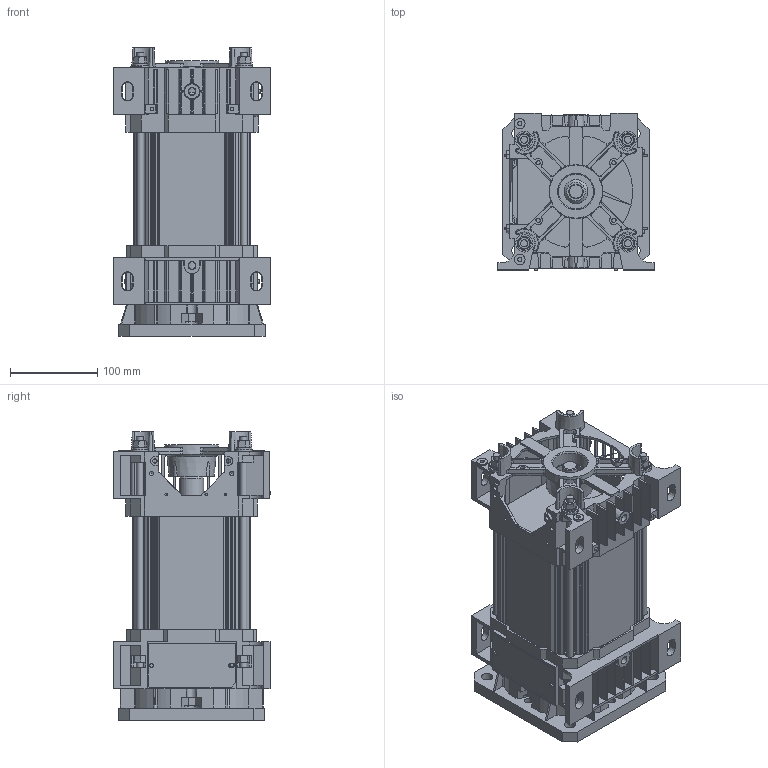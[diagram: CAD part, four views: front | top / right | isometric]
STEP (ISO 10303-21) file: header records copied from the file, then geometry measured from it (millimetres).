
FILE_DESCRIPTION(/* description */ ('Motore Tipo S34 Fl.155 F19-H140 NO Volano NO Piedi'),/* implementation_level */ '2;1');
FILE_NAME(/* name */ 'Y:\ServerTecnico\Mockup Motori x Sito Elmo\Mockup Tipo S34 Size 3 FL155 F19-H140 NO Volano.stp',/* time_stamp */ '2016-10-06T09:36:43+02:00',/* author */ ('aparmini'),/* organization */ (''),/* preprocessor_version */ 'ST-DEVELOPER v16.5',/* originating_system */ 'Autodesk Inventor 2017',/* authorisation */ '');
FILE_SCHEMA (('AUTOMOTIVE_DESIGN { 1 0 10303 214 3 1 1 }'));
Products named in the file (8): Mockup Tipo S34 Size 3 FL155 F19-H140 NO Volano; Mockup CP3XD040N; Mockup CA3ND155Q; Mockup Statore Size 3 - F19-H140; TGS10; TI08ML265; UNI 5587 - M8; DIN 125-2 - B 8,4
Assembly tree (20 placements, depth 2):
  Mockup Tipo S34 Size 3 FL155 F19-H140 NO Volano
    Mockup CP3XD040N
    Mockup CA3ND155Q
    Mockup Statore Size 3 - F19-H140
    TGS10
    UNI 5587 - M8  x8
    TI08ML265  x4
    DIN 125-2 - B 8,4  x4
Bounding box: 180 x 181 x 331 mm (x, y, z)
Volume: 3373899.8 mm3; surface area: 572500.5 mm2
Topology: 20 solids, 20 shells, 1909 faces, 5299 edges, 3428 vertices
Faces by surface type: plane 1048, cylinder 410, cone 340, bspline 86, torus 25
Full cylindrical faces by diameter (mm): 3.2 x3, 4 x8, 4.917 x4, 5 x2, 6.647 x8, 8 x4, 8.4 x4, 12 x2, 13 x4, 16 x4, 17 x1, 19 x1, 20 x4, 21 x1, 27.5 x1, 32 x1, 40 x2, 40.1 x1, 42.5 x1, 46 x1, 81 x1, 155 x1
Entity records: 58865 total; most frequent: CARTESIAN_POINT 13130, ORIENTED_EDGE 9592, DIRECTION 9568, EDGE_CURVE 4796, AXIS2_PLACEMENT_3D 3303, VERTEX_POINT 3187, LINE 2962, VECTOR 2962
